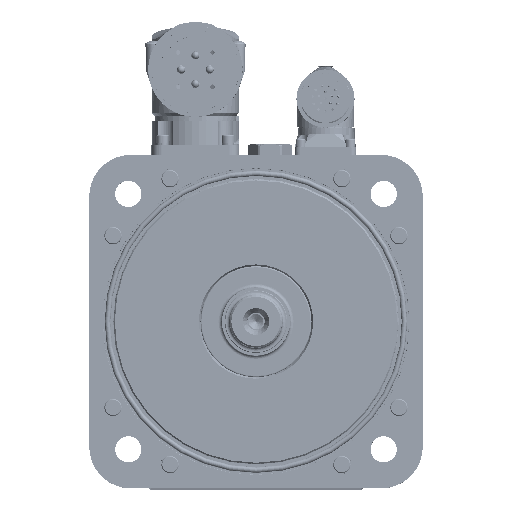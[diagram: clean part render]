
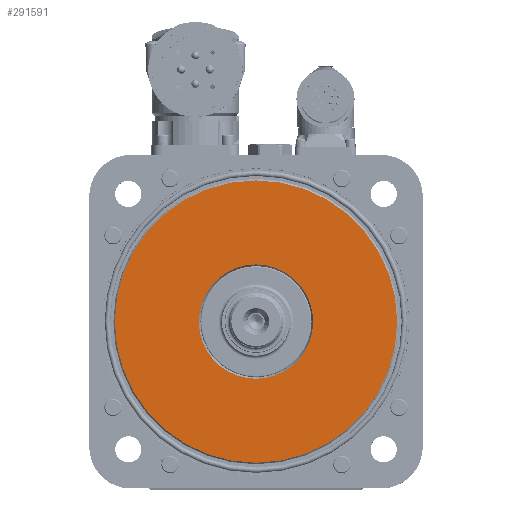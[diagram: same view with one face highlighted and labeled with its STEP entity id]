
A CAD part, top view. The second image highlights one B-rep face of the part: STEP entity #291591.
In plain terms, the highlighted planar face has unit normal (0, 0, 1).
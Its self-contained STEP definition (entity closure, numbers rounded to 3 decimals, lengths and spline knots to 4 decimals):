
#9775 = DIRECTION ( 'NONE',  ( 0., 0., 1. ) ) ;
#10976 = DIRECTION ( 'NONE',  ( 0., 0., 1. ) ) ;
#17317 = DIRECTION ( 'NONE',  ( 0., 0., -1. ) ) ;
#29932 = DIRECTION ( 'NONE',  ( 0., 0., 1. ) ) ;
#30772 = AXIS2_PLACEMENT_3D ( 'NONE', #357320, #17317, #461636 ) ;
#33398 = VERTEX_POINT ( 'NONE', #309088 ) ;
#44760 = FACE_BOUND ( 'NONE', #277192, .T. ) ;
#67122 = DIRECTION ( 'NONE',  ( 1., 0., 0. ) ) ;
#84701 = ORIENTED_EDGE ( 'NONE', *, *, #164520, .F. ) ;
#98287 = AXIS2_PLACEMENT_3D ( 'NONE', #191063, #9775, #463856 ) ;
#101920 = CIRCLE ( 'NONE', #205014, 1.0284 ) ;
#122478 = CARTESIAN_POINT ( 'NONE',  ( 2.5391, 0., 0.138 ) ) ;
#150347 = DIRECTION ( 'NONE',  ( 0., 0., 1. ) ) ;
#158972 = FACE_OUTER_BOUND ( 'NONE', #433124, .T. ) ;
#164520 = EDGE_CURVE ( 'NONE', #221077, #33398, #382445, .T. ) ;
#164832 = DIRECTION ( 'NONE',  ( 1., 0., 0. ) ) ;
#191063 = CARTESIAN_POINT ( 'NONE',  ( 0., 0., 0.138 ) ) ;
#199367 = VERTEX_POINT ( 'NONE', #401578 ) ;
#205014 = AXIS2_PLACEMENT_3D ( 'NONE', #388179, #10976, #164832 ) ;
#210110 = EDGE_CURVE ( 'NONE', #479445, #199367, #302715, .T. ) ;
#221077 = VERTEX_POINT ( 'NONE', #394378 ) ;
#252402 = ORIENTED_EDGE ( 'NONE', *, *, #308922, .F. ) ;
#277192 = EDGE_LOOP ( 'NONE', ( #84701, #252402 ) ) ;
#291591 = ADVANCED_FACE ( 'NONE', ( #44760, #158972 ), #310351, .F. ) ;
#302715 = CIRCLE ( 'NONE', #358670, 2.5391 ) ;
#308922 = EDGE_CURVE ( 'NONE', #33398, #221077, #101920, .T. ) ;
#309088 = CARTESIAN_POINT ( 'NONE',  ( -1.0284, 0., 0.138 ) ) ;
#310351 = PLANE ( 'NONE',  #30772 ) ;
#312360 = CIRCLE ( 'NONE', #98287, 2.5391 ) ;
#327909 = EDGE_CURVE ( 'NONE', #199367, #479445, #312360, .T. ) ;
#357320 = CARTESIAN_POINT ( 'NONE',  ( 0., 1.0284, 0.138 ) ) ;
#358670 = AXIS2_PLACEMENT_3D ( 'NONE', #407153, #29932, #67122 ) ;
#368878 = CARTESIAN_POINT ( 'NONE',  ( 0., 0., 0.138 ) ) ;
#371088 = ORIENTED_EDGE ( 'NONE', *, *, #210110, .T. ) ;
#382445 = CIRCLE ( 'NONE', #477641, 1.0284 ) ;
#388179 = CARTESIAN_POINT ( 'NONE',  ( 0., 0., 0.138 ) ) ;
#394378 = CARTESIAN_POINT ( 'NONE',  ( 1.0284, 0., 0.138 ) ) ;
#401578 = CARTESIAN_POINT ( 'NONE',  ( -2.5391, 0., 0.138 ) ) ;
#407153 = CARTESIAN_POINT ( 'NONE',  ( 0., 0., 0.138 ) ) ;
#433124 = EDGE_LOOP ( 'NONE', ( #482093, #371088 ) ) ;
#461636 = DIRECTION ( 'NONE',  ( -1., 0., 0. ) ) ;
#463856 = DIRECTION ( 'NONE',  ( 1., 0., 0. ) ) ;
#477641 = AXIS2_PLACEMENT_3D ( 'NONE', #368878, #150347, #487795 ) ;
#479445 = VERTEX_POINT ( 'NONE', #122478 ) ;
#482093 = ORIENTED_EDGE ( 'NONE', *, *, #327909, .T. ) ;
#487795 = DIRECTION ( 'NONE',  ( 1., 0., 0. ) ) ;
